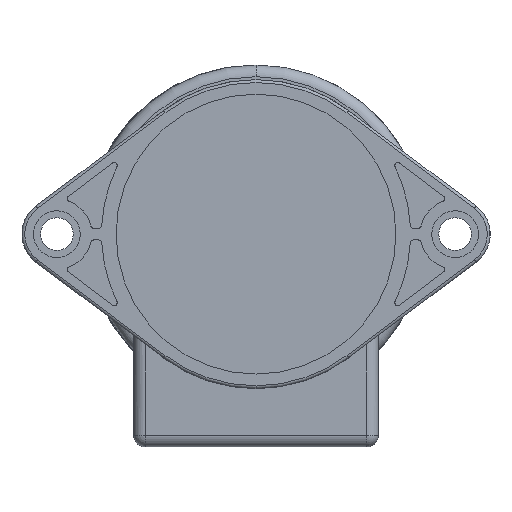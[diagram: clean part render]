
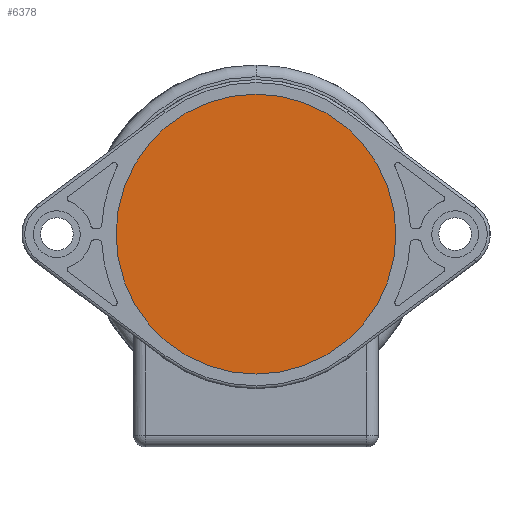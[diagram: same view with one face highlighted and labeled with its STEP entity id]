
A CAD part, front view. The second image highlights one B-rep face of the part: STEP entity #6378.
In plain terms, the highlighted planar face has unit normal (0, -1, 0).
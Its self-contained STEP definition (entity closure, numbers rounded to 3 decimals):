
#3158=CARTESIAN_POINT('',(0.,0.2,0.));
#3159=DIRECTION('',(0.,-1.,0.));
#3160=DIRECTION('',(0.,0.,1.));
#3161=AXIS2_PLACEMENT_3D('',#3158,#3159,#3160);
#3163=CARTESIAN_POINT('',(0.,0.2,0.));
#3164=DIRECTION('',(0.,-1.,0.));
#3165=DIRECTION('',(0.,0.,-1.));
#3166=AXIS2_PLACEMENT_3D('',#3163,#3164,#3165);
#3172=CARTESIAN_POINT('',(0.,0.2,-24.));
#3173=CARTESIAN_POINT('',(0.,0.2,24.));
#3174=VERTEX_POINT('',#3172);
#3175=VERTEX_POINT('',#3173);
#6369=CARTESIAN_POINT('',(0.,0.2,0.));
#6370=DIRECTION('',(0.,-1.,0.));
#6371=DIRECTION('',(0.,0.,1.));
#6372=AXIS2_PLACEMENT_3D('',#6369,#6370,#6371);
#6373=PLANE('',#6372);
#6374=ORIENTED_EDGE('',*,*,#6351,.F.);
#6375=ORIENTED_EDGE('',*,*,#6361,.F.);
#6376=EDGE_LOOP('',(#6374,#6375));
#6377=FACE_OUTER_BOUND('',#6376,.F.);
#6378=ADVANCED_FACE('',(#6377),#6373,.T.);
#3162=CIRCLE('',#3161,24.);
#3167=CIRCLE('',#3166,24.);
#6351=EDGE_CURVE('',#3175,#3174,#3162,.T.);
#6361=EDGE_CURVE('',#3174,#3175,#3167,.T.);
